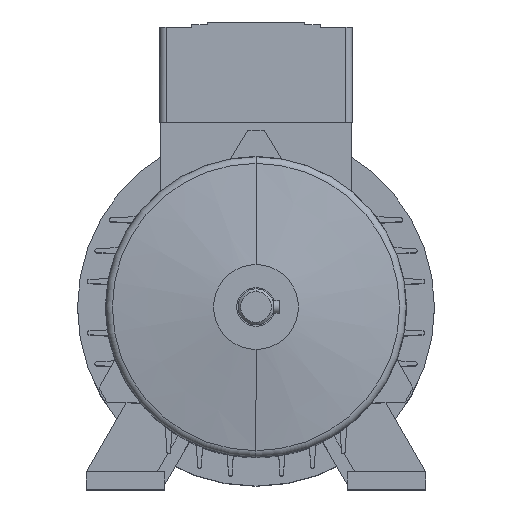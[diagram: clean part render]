
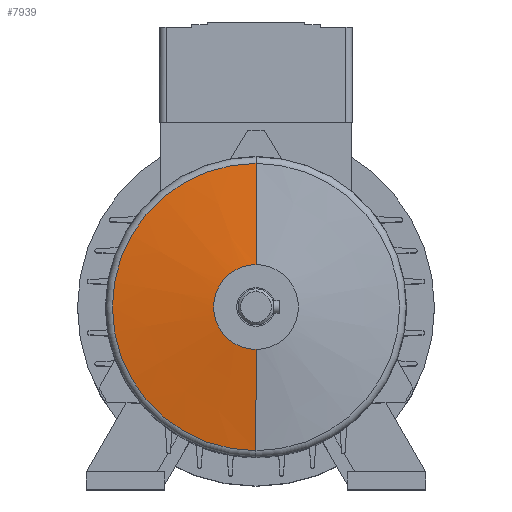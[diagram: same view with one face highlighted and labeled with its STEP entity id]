
A CAD part, top view. The second image highlights one B-rep face of the part: STEP entity #7939.
In plain terms, the highlighted conical face has half-angle 82 degrees and reference radius 36.209 mm.
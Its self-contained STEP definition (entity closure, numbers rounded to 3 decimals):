
#2643=CARTESIAN_POINT('',(0.,0.,9.46));
#2644=DIRECTION('',(0.,0.,1.));
#2645=DIRECTION('',(0.,1.,0.));
#2646=AXIS2_PLACEMENT_3D('',#2643,#2644,#2645);
#2658=DIRECTION('',(0.,-0.99,0.139));
#2659=VECTOR('',#2658,39.805);
#2660=CARTESIAN_POINT('',(0.,55.918,
9.46));
#2661=LINE('',#2660,#2659);
#2662=DIRECTION('',(0.,0.99,0.139));
#2663=VECTOR('',#2662,39.805);
#2664=CARTESIAN_POINT('',(0.,-55.918,
9.46));
#2665=LINE('',#2664,#2663);
#2694=CARTESIAN_POINT('',(0.,0.,15.));
#2695=DIRECTION('',(0.,0.,1.));
#2696=DIRECTION('',(0.,1.,0.));
#2697=AXIS2_PLACEMENT_3D('',#2694,#2695,#2696);
#3365=CARTESIAN_POINT('',(0.,16.5,15.));
#3367=VERTEX_POINT('',#3365);
#3373=CARTESIAN_POINT('',(0.,-16.5,15.));
#3375=VERTEX_POINT('',#3373);
#3432=CARTESIAN_POINT('',(0.,55.918,9.46));
#3433=CARTESIAN_POINT('',(0.,-55.918,
9.46));
#3434=VERTEX_POINT('',#3432);
#3435=VERTEX_POINT('',#3433);
#7925=CARTESIAN_POINT('',(0.,0.,12.23));
#7926=DIRECTION('',(0.,0.,-1.));
#7927=DIRECTION('',(0.,-1.,0.));
#7928=AXIS2_PLACEMENT_3D('',#7925,#7926,#7927);
#7929=CONICAL_SURFACE('',#7928,36.209,82.);
#7930=ORIENTED_EDGE('',*,*,#7915,.F.);
#7932=ORIENTED_EDGE('',*,*,#7931,.T.);
#7934=ORIENTED_EDGE('',*,*,#7933,.T.);
#7936=ORIENTED_EDGE('',*,*,#7935,.F.);
#7937=EDGE_LOOP('',(#7930,#7932,#7934,#7936));
#7938=FACE_OUTER_BOUND('',#7937,.F.);
#7939=ADVANCED_FACE('',(#7938),#7929,.T.);
#2647=CIRCLE('',#2646,55.918);
#2698=CIRCLE('',#2697,16.5);
#7915=EDGE_CURVE('',#3434,#3435,#2647,.T.);
#7931=EDGE_CURVE('',#3434,#3367,#2661,.T.);
#7933=EDGE_CURVE('',#3367,#3375,#2698,.T.);
#7935=EDGE_CURVE('',#3435,#3375,#2665,.T.);
